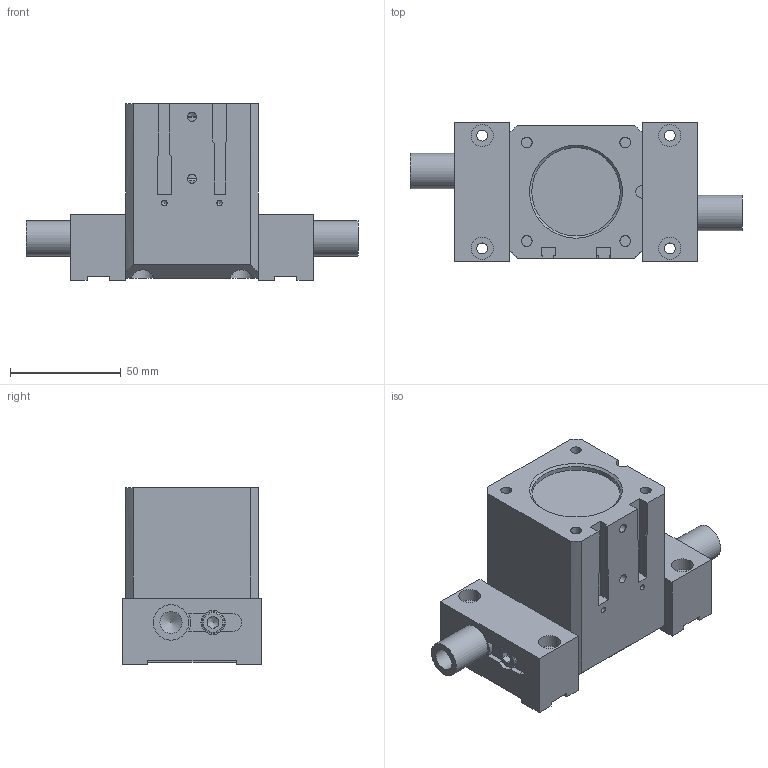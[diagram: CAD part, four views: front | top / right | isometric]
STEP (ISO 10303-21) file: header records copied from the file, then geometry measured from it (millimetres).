
FILE_DESCRIPTION((''),'2;1');
FILE_NAME('T:\CAD\Standard\Daten\3D-Datenbank\GP\4 - 3D-CAD-Daten GP 050-125\GP080\step-Daten\G-GP080-l2-GS+UB closed.stp','2013-11-07T10:56:18',('Dirk'),(''),'Autodesk Inventor 2011','Autodesk Inventor 2011','');
FILE_SCHEMA(('AUTOMOTIVE_DESIGN { 1 0 10303 214 1 1 1 1 }'));
Length unit declared in the file: millimetre
Products named in the file (1): Bauteil27
Bounding box: 150.11 x 63 x 80 mm (x, y, z)
Volume: 313177.4 mm3; surface area: 88548 mm2
Topology: 1 solids, 22 shells, 433 faces, 1073 edges, 693 vertices
Faces by surface type: plane 248, cylinder 123, cone 34, torus 27, bspline 1
Full cylindrical faces by diameter (mm): 2.459 x2, 4.134 x2, 4.917 x10, 6 x6, 6.5 x4, 6.6 x2, 8.376 x1, 10 x13, 10.5 x1, 11 x8, 16 x2, 18 x7, 20 x2, 24.4 x2, 26 x2, 35 x1, 36 x2, 40 x2, 40.2 x2, 47.1 x2, 50 x6
Entity records: 13158 total; most frequent: CARTESIAN_POINT 3176, DIRECTION 1993, ORIENTED_EDGE 1746, EDGE_CURVE 873, AXIS2_PLACEMENT_3D 759, EDGE_LOOP 639, VERTEX_POINT 629, VECTOR 475
